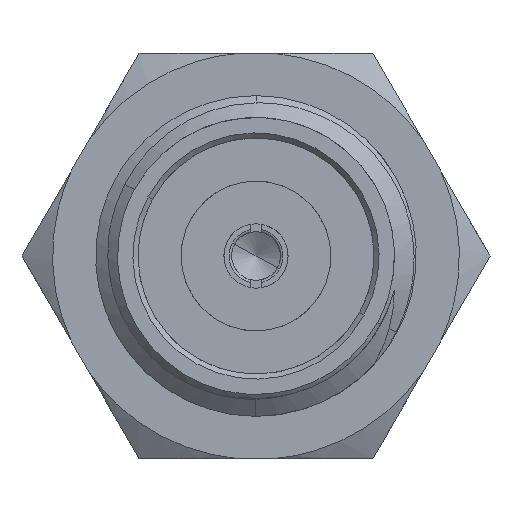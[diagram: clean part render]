
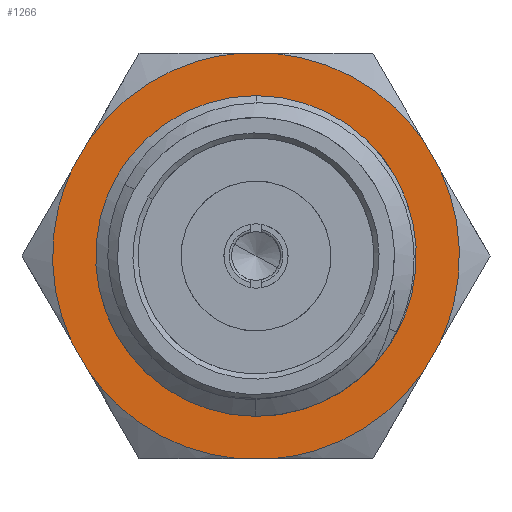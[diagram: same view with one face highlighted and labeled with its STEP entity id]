
A CAD part, left-side view. The second image highlights one B-rep face of the part: STEP entity #1266.
In plain terms, the highlighted planar face has unit normal (-1, 0, 0).
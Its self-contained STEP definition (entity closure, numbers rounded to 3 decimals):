
#1054=CARTESIAN_POINT('Vertex',(6.,2.348,1.282)) ;
#1058=CARTESIAN_POINT('Control Point',(6.,-2.348,-1.282)) ;
#1059=CARTESIAN_POINT('Control Point',(6.,-1.945,-2.02)) ;
#1060=CARTESIAN_POINT('Control Point',(6.,-1.252,-2.599)) ;
#1061=CARTESIAN_POINT('Control Point',(6.,-0.351,-2.864)) ;
#1062=CARTESIAN_POINT('Control Point',(6.,1.441,-2.637)) ;
#1063=CARTESIAN_POINT('Control Point',(6.,2.599,-1.252)) ;
#1064=CARTESIAN_POINT('Control Point',(6.,2.864,-0.351)) ;
#1065=CARTESIAN_POINT('Control Point',(6.,2.75,0.545)) ;
#1066=CARTESIAN_POINT('Control Point',(6.,2.348,1.282)) ;
#1067=CARTESIAN_POINT('Vertex',(6.,-2.348,-1.282)) ;
#1100=CARTESIAN_POINT('Axis2P3D Location',(6.,0.,0.)) ;
#1123=CARTESIAN_POINT('Axis2P3D Location',(6.,-2.675,0.)) ;
#1129=CARTESIAN_POINT('Control Point',(6.,3.249,2.273)) ;
#1130=CARTESIAN_POINT('Control Point',(6.,3.025,2.593)) ;
#1131=CARTESIAN_POINT('Control Point',(6.,2.762,2.885)) ;
#1132=CARTESIAN_POINT('Control Point',(6.,2.464,3.143)) ;
#1133=CARTESIAN_POINT('Control Point',(6.,1.884,3.532)) ;
#1134=CARTESIAN_POINT('Control Point',(6.,1.237,3.785)) ;
#1135=CARTESIAN_POINT('Control Point',(6.,0.944,3.869)) ;
#1136=CARTESIAN_POINT('Control Point',(6.,0.646,3.924)) ;
#1137=CARTESIAN_POINT('Control Point',(6.,0.345,3.95)) ;
#1138=CARTESIAN_POINT('Vertex',(6.,3.249,2.273)) ;
#1140=CARTESIAN_POINT('Vertex',(6.,0.345,3.95)) ;
#1143=CARTESIAN_POINT('Line Origine',(6.,3.421,1.975)) ;
#1147=CARTESIAN_POINT('Vertex',(6.,3.593,1.677)) ;
#1151=CARTESIAN_POINT('Control Point',(6.,3.593,-1.677)) ;
#1152=CARTESIAN_POINT('Control Point',(6.,3.758,-1.323)) ;
#1153=CARTESIAN_POINT('Control Point',(6.,3.88,-0.949)) ;
#1154=CARTESIAN_POINT('Control Point',(6.,3.954,-0.562)) ;
#1155=CARTESIAN_POINT('Control Point',(6.,4.001,0.134)) ;
#1156=CARTESIAN_POINT('Control Point',(6.,3.897,0.822)) ;
#1157=CARTESIAN_POINT('Control Point',(6.,3.823,1.117)) ;
#1158=CARTESIAN_POINT('Control Point',(6.,3.721,1.403)) ;
#1159=CARTESIAN_POINT('Control Point',(6.,3.593,1.677)) ;
#1160=CARTESIAN_POINT('Vertex',(6.,3.593,-1.677)) ;
#1163=CARTESIAN_POINT('Line Origine',(6.,3.421,-1.975)) ;
#1167=CARTESIAN_POINT('Vertex',(6.,3.249,-2.273)) ;
#1171=CARTESIAN_POINT('Control Point',(6.,0.345,-3.95)) ;
#1172=CARTESIAN_POINT('Control Point',(6.,0.733,-3.916)) ;
#1173=CARTESIAN_POINT('Control Point',(6.,1.118,-3.834)) ;
#1174=CARTESIAN_POINT('Control Point',(6.,1.49,-3.705)) ;
#1175=CARTESIAN_POINT('Control Point',(6.,2.117,-3.398)) ;
#1176=CARTESIAN_POINT('Control Point',(6.,2.66,-2.964)) ;
#1177=CARTESIAN_POINT('Control Point',(6.,2.878,-2.752)) ;
#1178=CARTESIAN_POINT('Control Point',(6.,3.075,-2.521)) ;
#1179=CARTESIAN_POINT('Control Point',(6.,3.249,-2.273)) ;
#1180=CARTESIAN_POINT('Vertex',(6.,0.345,-3.95)) ;
#1183=CARTESIAN_POINT('Line Origine',(6.,0.,-3.95)) ;
#1187=CARTESIAN_POINT('Vertex',(6.,-0.345,-3.95)) ;
#1191=CARTESIAN_POINT('Control Point',(6.,-3.249,-2.273)) ;
#1192=CARTESIAN_POINT('Control Point',(6.,-3.025,-2.593)) ;
#1193=CARTESIAN_POINT('Control Point',(6.,-2.762,-2.885)) ;
#1194=CARTESIAN_POINT('Control Point',(6.,-2.464,-3.143)) ;
#1195=CARTESIAN_POINT('Control Point',(6.,-1.884,-3.532)) ;
#1196=CARTESIAN_POINT('Control Point',(6.,-1.237,-3.785)) ;
#1197=CARTESIAN_POINT('Control Point',(6.,-0.944,-3.869)) ;
#1198=CARTESIAN_POINT('Control Point',(6.,-0.646,-3.924)) ;
#1199=CARTESIAN_POINT('Control Point',(6.,-0.345,-3.95)) ;
#1200=CARTESIAN_POINT('Vertex',(6.,-3.249,-2.273)) ;
#1203=CARTESIAN_POINT('Line Origine',(6.,-3.421,-1.975)) ;
#1207=CARTESIAN_POINT('Vertex',(6.,-3.593,-1.677)) ;
#1211=CARTESIAN_POINT('Control Point',(6.,-3.593,1.677)) ;
#1212=CARTESIAN_POINT('Control Point',(6.,-3.758,1.323)) ;
#1213=CARTESIAN_POINT('Control Point',(6.,-3.88,0.949)) ;
#1214=CARTESIAN_POINT('Control Point',(6.,-3.954,0.562)) ;
#1215=CARTESIAN_POINT('Control Point',(6.,-4.001,-0.134)) ;
#1216=CARTESIAN_POINT('Control Point',(6.,-3.897,-0.822)) ;
#1217=CARTESIAN_POINT('Control Point',(6.,-3.823,-1.117)) ;
#1218=CARTESIAN_POINT('Control Point',(6.,-3.721,-1.403)) ;
#1219=CARTESIAN_POINT('Control Point',(6.,-3.593,-1.677)) ;
#1220=CARTESIAN_POINT('Vertex',(6.,-3.593,1.677)) ;
#1223=CARTESIAN_POINT('Line Origine',(6.,-3.421,1.975)) ;
#1227=CARTESIAN_POINT('Vertex',(6.,-3.249,2.273)) ;
#1231=CARTESIAN_POINT('Control Point',(6.,-0.345,3.95)) ;
#1232=CARTESIAN_POINT('Control Point',(6.,-0.733,3.916)) ;
#1233=CARTESIAN_POINT('Control Point',(6.,-1.118,3.834)) ;
#1234=CARTESIAN_POINT('Control Point',(6.,-1.49,3.705)) ;
#1235=CARTESIAN_POINT('Control Point',(6.,-2.117,3.398)) ;
#1236=CARTESIAN_POINT('Control Point',(6.,-2.66,2.964)) ;
#1237=CARTESIAN_POINT('Control Point',(6.,-2.878,2.752)) ;
#1238=CARTESIAN_POINT('Control Point',(6.,-3.075,2.521)) ;
#1239=CARTESIAN_POINT('Control Point',(6.,-3.249,2.273)) ;
#1240=CARTESIAN_POINT('Vertex',(6.,-0.345,3.95)) ;
#1243=CARTESIAN_POINT('Line Origine',(6.,0.,3.95)) ;
#1101=DIRECTION('Axis2P3D Direction',(1.,0.,-0.)) ;
#1124=DIRECTION('Axis2P3D Direction',(1.,0.,0.)) ;
#1125=DIRECTION('Axis2P3D XDirection',(0.,1.,0.)) ;
#1144=DIRECTION('Vector Direction',(0.,-0.5,0.866)) ;
#1164=DIRECTION('Vector Direction',(0.,-0.5,-0.866)) ;
#1184=DIRECTION('Vector Direction',(0.,1.,0.)) ;
#1204=DIRECTION('Vector Direction',(0.,0.5,-0.866)) ;
#1224=DIRECTION('Vector Direction',(0.,0.5,0.866)) ;
#1244=DIRECTION('Vector Direction',(0.,-1.,0.)) ;
#1102=AXIS2_PLACEMENT_3D('Circle Axis2P3D',#1100,#1101,$) ;
#1126=AXIS2_PLACEMENT_3D('Plane Axis2P3D',#1123,#1124,#1125) ;
#1249=ORIENTED_EDGE('',*,*,#1142,.F.) ;
#1250=ORIENTED_EDGE('',*,*,#1149,.F.) ;
#1251=ORIENTED_EDGE('',*,*,#1162,.F.) ;
#1252=ORIENTED_EDGE('',*,*,#1169,.T.) ;
#1253=ORIENTED_EDGE('',*,*,#1182,.F.) ;
#1254=ORIENTED_EDGE('',*,*,#1189,.F.) ;
#1255=ORIENTED_EDGE('',*,*,#1202,.F.) ;
#1256=ORIENTED_EDGE('',*,*,#1209,.F.) ;
#1257=ORIENTED_EDGE('',*,*,#1222,.F.) ;
#1258=ORIENTED_EDGE('',*,*,#1229,.T.) ;
#1259=ORIENTED_EDGE('',*,*,#1242,.F.) ;
#1260=ORIENTED_EDGE('',*,*,#1247,.F.) ;
#1263=ORIENTED_EDGE('',*,*,#1104,.T.) ;
#1264=ORIENTED_EDGE('',*,*,#1069,.T.) ;
#1265=FACE_BOUND('',#1262,.T.) ;
#1145=VECTOR('Line Direction',#1144,1.) ;
#1165=VECTOR('Line Direction',#1164,1.) ;
#1185=VECTOR('Line Direction',#1184,1.) ;
#1205=VECTOR('Line Direction',#1204,1.) ;
#1225=VECTOR('Line Direction',#1224,1.) ;
#1245=VECTOR('Line Direction',#1244,1.) ;
#1266=ADVANCED_FACE('\X2\96F690E84EF651E04F554F53\X0\',(#1261,#1265),#1127,.F.) ;
#1057=B_SPLINE_CURVE_WITH_KNOTS('',5,(#1058,#1059,#1060,#1061,#1062,#1063,#1064,#1065,#1066),.UNSPECIFIED.,.F.,.U.,(6,3,6),(-4.202,0.,4.202),.UNSPECIFIED.) ;
#1128=B_SPLINE_CURVE_WITH_KNOTS('',5,(#1129,#1130,#1131,#1132,#1133,#1134,#1135,#1136,#1137),.UNSPECIFIED.,.F.,.U.,(6,3,6),(0.,2.765,4.906),.UNSPECIFIED.) ;
#1150=B_SPLINE_CURVE_WITH_KNOTS('',5,(#1151,#1152,#1153,#1154,#1155,#1156,#1157,#1158,#1159),.UNSPECIFIED.,.F.,.U.,(6,3,6),(0.,2.765,4.906),.UNSPECIFIED.) ;
#1170=B_SPLINE_CURVE_WITH_KNOTS('',5,(#1171,#1172,#1173,#1174,#1175,#1176,#1177,#1178,#1179),.UNSPECIFIED.,.F.,.U.,(6,3,6),(0.,2.765,4.906),.UNSPECIFIED.) ;
#1190=B_SPLINE_CURVE_WITH_KNOTS('',5,(#1191,#1192,#1193,#1194,#1195,#1196,#1197,#1198,#1199),.UNSPECIFIED.,.F.,.U.,(6,3,6),(0.,2.765,4.906),.UNSPECIFIED.) ;
#1210=B_SPLINE_CURVE_WITH_KNOTS('',5,(#1211,#1212,#1213,#1214,#1215,#1216,#1217,#1218,#1219),.UNSPECIFIED.,.F.,.U.,(6,3,6),(0.,2.765,4.906),.UNSPECIFIED.) ;
#1230=B_SPLINE_CURVE_WITH_KNOTS('',5,(#1231,#1232,#1233,#1234,#1235,#1236,#1237,#1238,#1239),.UNSPECIFIED.,.F.,.U.,(6,3,6),(0.,2.765,4.906),.UNSPECIFIED.) ;
#1103=CIRCLE('generated circle',#1102,2.675) ;
#1069=EDGE_CURVE('',#1068,#1055,#1057,.T.) ;
#1104=EDGE_CURVE('',#1055,#1068,#1103,.T.) ;
#1142=EDGE_CURVE('',#1139,#1141,#1128,.T.) ;
#1149=EDGE_CURVE('',#1148,#1139,#1146,.T.) ;
#1162=EDGE_CURVE('',#1161,#1148,#1150,.T.) ;
#1169=EDGE_CURVE('',#1161,#1168,#1166,.T.) ;
#1182=EDGE_CURVE('',#1181,#1168,#1170,.T.) ;
#1189=EDGE_CURVE('',#1188,#1181,#1186,.T.) ;
#1202=EDGE_CURVE('',#1201,#1188,#1190,.T.) ;
#1209=EDGE_CURVE('',#1208,#1201,#1206,.T.) ;
#1222=EDGE_CURVE('',#1221,#1208,#1210,.T.) ;
#1229=EDGE_CURVE('',#1221,#1228,#1226,.T.) ;
#1242=EDGE_CURVE('',#1241,#1228,#1230,.T.) ;
#1247=EDGE_CURVE('',#1141,#1241,#1246,.T.) ;
#1248=EDGE_LOOP('',(#1249,#1250,#1251,#1252,#1253,#1254,#1255,#1256,#1257,#1258,#1259,#1260)) ;
#1262=EDGE_LOOP('',(#1263,#1264)) ;
#1261=FACE_OUTER_BOUND('',#1248,.T.) ;
#1146=LINE('Line',#1143,#1145) ;
#1166=LINE('Line',#1163,#1165) ;
#1186=LINE('Line',#1183,#1185) ;
#1206=LINE('Line',#1203,#1205) ;
#1226=LINE('Line',#1223,#1225) ;
#1246=LINE('Line',#1243,#1245) ;
#1127=PLANE('Plane',#1126) ;
#1055=VERTEX_POINT('',#1054) ;
#1068=VERTEX_POINT('',#1067) ;
#1139=VERTEX_POINT('',#1138) ;
#1141=VERTEX_POINT('',#1140) ;
#1148=VERTEX_POINT('',#1147) ;
#1161=VERTEX_POINT('',#1160) ;
#1168=VERTEX_POINT('',#1167) ;
#1181=VERTEX_POINT('',#1180) ;
#1188=VERTEX_POINT('',#1187) ;
#1201=VERTEX_POINT('',#1200) ;
#1208=VERTEX_POINT('',#1207) ;
#1221=VERTEX_POINT('',#1220) ;
#1228=VERTEX_POINT('',#1227) ;
#1241=VERTEX_POINT('',#1240) ;
